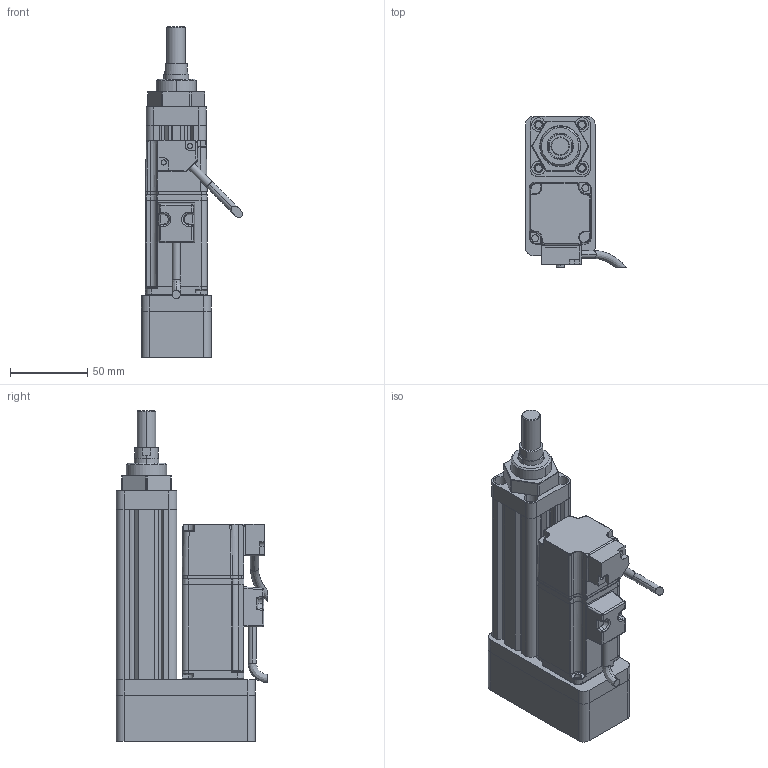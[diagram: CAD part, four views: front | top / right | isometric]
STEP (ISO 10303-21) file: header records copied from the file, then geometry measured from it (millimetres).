
FILE_DESCRIPTION (( 'STEP AP214' ), '1' );
FILE_NAME ('039-S50-D02-B-M4-C1-2.STEP', '2021-02-25T08:53:30', ( '' ), ( '' ), 'SwSTEP 2.0', 'SolidWorks 2018', '' );
FILE_SCHEMA (( 'AUTOMOTIVE_DESIGN' ));
Length unit declared in the file: millimetre
Products named in the file (8): CMC039-DT; CMC039-FL; CMC039-GT; CMC039-HXT; CMC039-M261; ECMA-CX0401ES-40框號系列機種-100W低慣量系列; CMC039-LJB; 039-S50-D02-B-M4-C1-2
Assembly tree (7 placements, depth 2):
  039-S50-D02-B-M4-C1-2
    CMC039-GT
    CMC039-LJB
    CMC039-FL
    CMC039-DT
    ECMA-CX0401ES-40框號系列機種-100W低慣量系列
    CMC039-M261
    CMC039-HXT
Bounding box: 65.34 x 97.89 x 214 mm (x, y, z)
Volume: 387720.2 mm3; surface area: 112552.9 mm2
Topology: 7 solids, 15 shells, 700 faces, 1816 edges, 1128 vertices
Faces by surface type: cylinder 287, plane 270, bspline 84, cone 59
Entity records: 27587 total; most frequent: CARTESIAN_POINT 11136, ORIENTED_EDGE 3566, DIRECTION 2952, EDGE_CURVE 1783, VERTEX_POINT 1128, AXIS2_PLACEMENT_3D 1031, VECTOR 890, LINE 890
